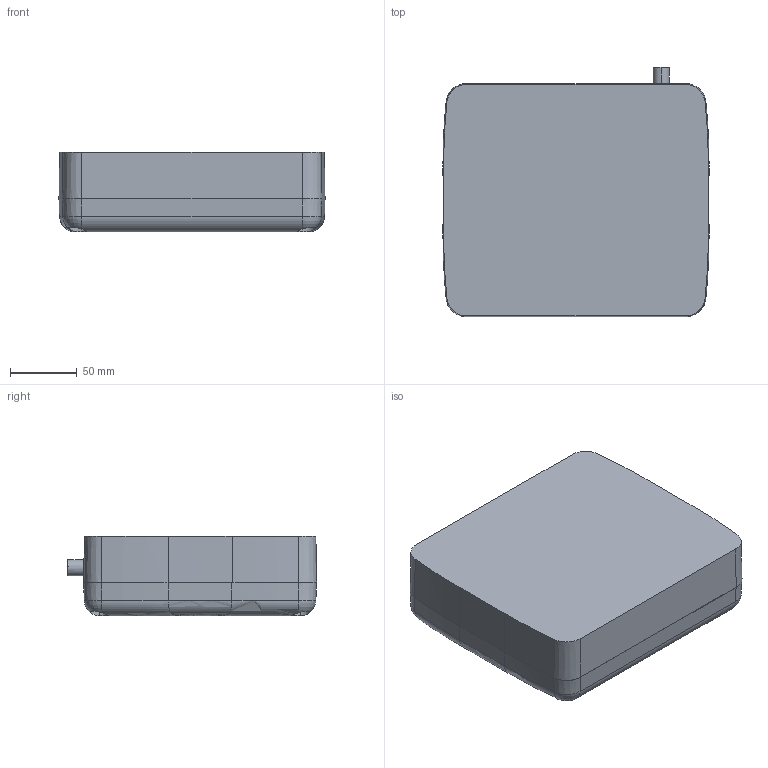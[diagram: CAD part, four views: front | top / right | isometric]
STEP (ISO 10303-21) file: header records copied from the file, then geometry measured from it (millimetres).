
FILE_DESCRIPTION (( 'STEP AP203' ), '1' );
FILE_NAME ('TN902-Q175L200-H1147.step', '2017-04-24T20:41:11', ( 'Turck User' ), ( '' ), 'SwSTEP 2.0', 'SolidWorks 2015', '' );
FILE_SCHEMA (( 'CONFIG_CONTROL_DESIGN' ));
Length unit declared in the file: millimetre
Products named in the file (2): TN902-Q175L200-H1147
Bounding box: 200 x 187.41 x 60 mm (x, y, z)
Volume: 2024161 mm3; surface area: 112390.1 mm2
Topology: 1 solids, 1 shells, 199 faces, 520 edges, 338 vertices
Faces by surface type: cylinder 84, plane 81, cone 18, torus 10, bspline 6
Entity records: 7341 total; most frequent: CARTESIAN_POINT 2193, DIRECTION 1088, ORIENTED_EDGE 1036, EDGE_CURVE 518, AXIS2_PLACEMENT_3D 417, VERTEX_POINT 338, LINE 254, VECTOR 254
